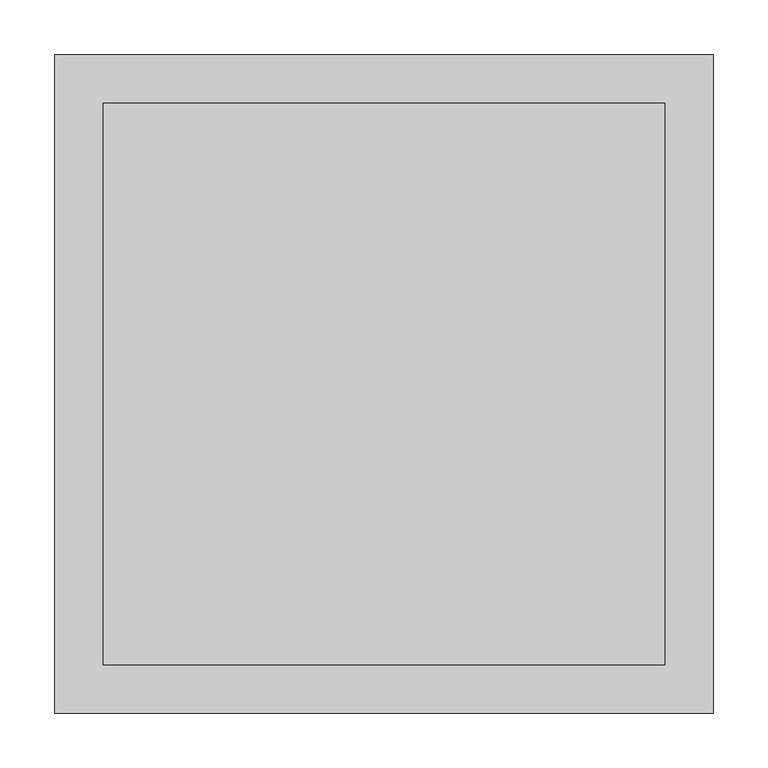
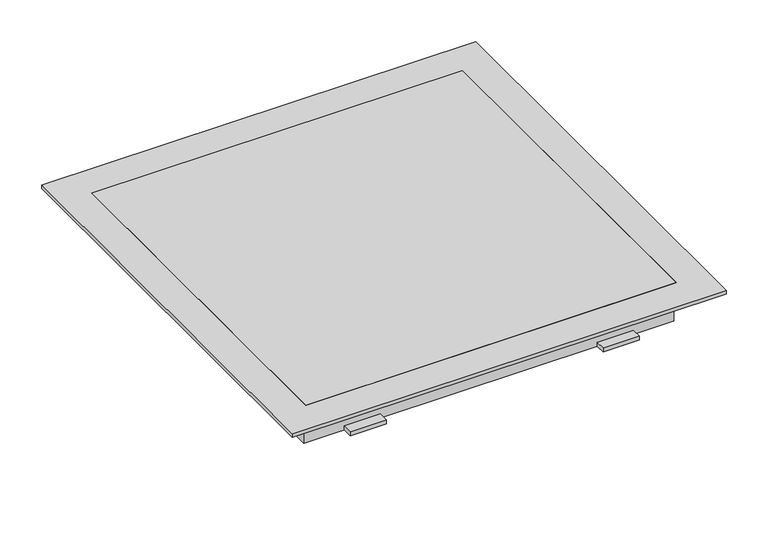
"""IFC4 building model written with IfcOpenShell, lengths in millimetres: light fixture geometry, TAURUS_CLIP_ATENALUX_MOT-In : 32W LED-F 4000K IRC_90 MOT RAL 9003 OPACO IP65."""

from ifc_helpers import new_model, si_unit, frame, origin, place, context, project, spatial, polyline, outline, extrude, faceted_brep, source, transform, mapped, element, save


def light_fixture_02ca46bd(model_context):
    return source(origin(), model_context, "Body", "SolidModel", [
        extrude(outline(polyline([(212.0, 76.0), (212.0, -76.0), (-212.0, -76.0), (-212.0, 76.0), (212.0, 76.0)])), frame((0.0, 0.0, -110.0), z_axis=(0.0, 0.0, 1.0), x_axis=(1.0, 0.0, 0.0)), (0.0, 0.0, 1.0), 51.0),
        extrude(outline(polyline([(-200.0, -265.0), (-200.0, -251.0), (-150.0, -251.0), (-150.0, -265.0), (-200.0, -265.0)])), frame((0.0, 0.0, -59.0), z_axis=(0.0, 0.0, 1.0), x_axis=(1.0, 0.0, 0.0)), (0.0, 0.0, 1.0), 5.9541326),
        extrude(outline(polyline([(200.0, -251.0), (200.0, -265.0), (150.0, -265.0), (150.0, -251.0), (200.0, -251.0)])), frame((0.0, 0.0, -59.0), z_axis=(0.0, 0.0, 1.0), x_axis=(1.0, 0.0, 0.0)), (0.0, 0.0, 1.0), 5.9541326),
        extrude(outline(polyline([(-200.0, 251.0), (-200.0, 265.0), (-150.0, 265.0), (-150.0, 251.0), (-200.0, 251.0)])), frame((0.0, 0.0, -59.0), z_axis=(0.0, 0.0, 1.0), x_axis=(1.0, 0.0, 0.0)), (0.0, 0.0, 1.0), 5.9541326),
        extrude(outline(polyline([(200.0, 265.0), (200.0, 251.0), (150.0, 251.0), (150.0, 265.0), (200.0, 265.0)])), frame((0.0, 0.0, -59.0), z_axis=(0.0, 0.0, 1.0), x_axis=(1.0, 0.0, 0.0)), (0.0, 0.0, 1.0), 5.9541326),
        extrude(outline(polyline([(256.0, 251.0), (256.0, -251.0), (-256.0, -251.0), (-256.0, 251.0), (256.0, 251.0)])), frame((0.0, 0.0, -59.0), z_axis=(0.0, 0.0, 1.0), x_axis=(1.0, 0.0, 0.0)), (0.0, 0.0, 1.0), 42.0955541),
        extrude(outline(polyline([(265.0, -16.9044459), (-265.0, -16.9044459), (-265.0, -5.0), (-263.0, -5.0), (-263.0, -14.9044459), (263.0, -14.9044459), (263.0, -5.0), (265.0, -5.0), (265.0, -16.9044459)])), frame((-263.0, 0.0, 0.0), z_axis=(1.0, 0.0, 0.0), x_axis=(0.0, 1.0, 0.0)), (0.0, 0.0, 1.0), 526.0),
        extrude(outline(polyline([(256.0, 256.0), (256.0, -256.0), (-256.0, -256.0), (-256.0, 256.0), (256.0, 256.0)])), frame((0.0, 0.0, -5.0), z_axis=(0.0, 0.0, 1.0), x_axis=(1.0, 0.0, 0.0)), (0.0, 0.0, 1.0), 5.0),
        faceted_brep([(263.0, 265.0, -16.9044459), (263.0, -265.0, -16.9044459), (263.0, -265.0, -5.0), (263.0, 265.0, -5.0), (265.0, -265.0, -16.9044459), (265.0, 265.0, -16.9044459), (265.0, 265.0, -5.0), (265.0, -265.0, -5.0), (300.0, 300.0, 0.0), (-300.0, 300.0, 0.0), (-300.0, -300.0, 0.0), (300.0, -300.0, 0.0), (256.0, 256.0, 0.0), (256.0, -256.0, 0.0), (-256.0, -256.0, 0.0), (-256.0, 256.0, 0.0), (-263.0, -265.0, -16.9044459), (-263.0, 265.0, -16.9044459), (-263.0, 265.0, -5.0), (-263.0, -265.0, -5.0), (-265.0, 265.0, -16.9044459), (-265.0, -265.0, -16.9044459), (-265.0, -265.0, -5.0), (-265.0, 265.0, -5.0), (300.0, 300.0, -5.0), (300.0, -300.0, -5.0), (-300.0, -300.0, -5.0), (-300.0, 300.0, -5.0), (256.0, 256.0, -5.0), (-256.0, 256.0, -5.0), (-256.0, -256.0, -5.0), (256.0, -256.0, -5.0)], [[[0, 1, 2, 3]], [[4, 5, 6, 7]], [[1, 4, 7, 2]], [[1, 0, 5, 4]], [[5, 0, 3, 6]], [[8, 9, 10, 11], [12, 13, 14, 15]], [[16, 17, 18, 19]], [[20, 21, 22, 23]], [[21, 16, 19, 22]], [[17, 16, 21, 20]], [[17, 20, 23, 18]], [[24, 25, 26, 27], [3, 2, 7, 6], [19, 18, 23, 22], [28, 29, 30, 31]], [[9, 8, 24, 27]], [[10, 9, 27, 26]], [[11, 10, 26, 25]], [[8, 11, 25, 24]], [[13, 12, 28, 31]], [[14, 13, 31, 30]], [[15, 14, 30, 29]], [[12, 15, 29, 28]]]),
    ])


if __name__ == "__main__":
    model = new_model("IFC4")
    model_context = context("Model", 3, world=origin())
    ifc_project = project(units=[si_unit("LENGTHUNIT", "METRE", prefix="MILLI")], contexts=[model_context])
    site = spatial("IfcSite", under=ifc_project)
    building = spatial("IfcBuilding", under=site)
    placement = place(None, origin())
    light_fixture_shape = light_fixture_02ca46bd(model_context)
    element("IfcLightFixture", 1, ObjectType="TAURUS_CLIP_ATENALUX_MOT-In : 32W LED-F 4000K IRC_90 MOT RAL 9003 OPACO IP65", at=placement, inside=building, context=model_context, shape_type="MappedRepresentation", body=[
        mapped(light_fixture_shape, transform((0.0, 0.0, 0.0), x_axis=(1.0, 0.0, 0.0), y_axis=(0.0, 1.0, 0.0), z_axis=(0.0, 0.0, 1.0))),
    ])
    save(model, "model.ifc")
